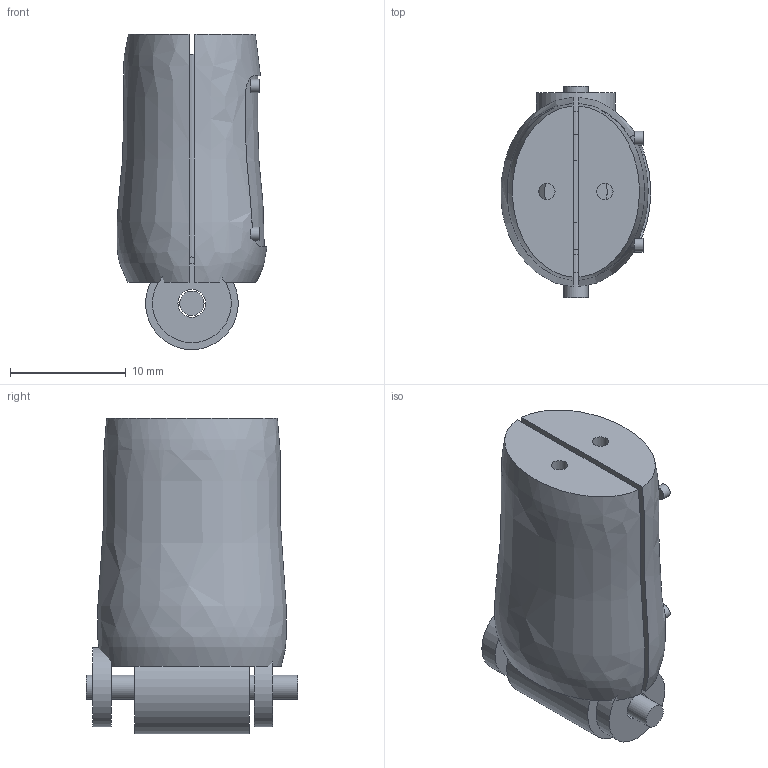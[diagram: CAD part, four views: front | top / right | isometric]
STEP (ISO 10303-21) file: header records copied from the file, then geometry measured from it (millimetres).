
FILE_DESCRIPTION(('FreeCAD Model'),'2;1');
FILE_NAME('Open CASCADE Shape Model','2026-10-05T09:22:56',('Author'),( ''),'Open CASCADE STEP processor 7.8','FreeCAD','Unknown');
FILE_SCHEMA(('AUTOMOTIVE_DESIGN { 1 0 10303 214 1 1 1 1 }'));
Length unit declared in the file: millimetre
Products named in the file (13): Export_middle_intermediate; middle_intermediateDorsalShell; middle_intermediateFlexorShell; middle_intermediateInsetPad; middle_intermediateCore; middle_intermediateHingeBarrel; middle_intermediateCheek-1; middle_intermediateCheek1; middle_intermediatePin; middle_intermediateScrew_-1_0.24; middle_intermediateScrew_-1_0.75; middle_intermediateScrew_1_0.24; middle_intermediateScrew_1_0.75
Assembly tree (12 placements, depth 2):
  Export_middle_intermediate
    middle_intermediateDorsalShell
    middle_intermediateFlexorShell
    middle_intermediateInsetPad
    middle_intermediateCore
    middle_intermediateHingeBarrel
    middle_intermediateCheek-1
    middle_intermediateCheek1
    middle_intermediatePin
    middle_intermediateScrew_-1_0.24
    middle_intermediateScrew_-1_0.75
    middle_intermediateScrew_1_0.24
    middle_intermediateScrew_1_0.75
Bounding box: 12.92 x 18.2 x 27.2 mm (x, y, z)
Volume: 3984.2 mm3; surface area: 3523 mm2
Topology: 12 solids, 12 shells, 83 faces, 150 edges, 90 vertices
Faces by surface type: plane 38, cylinder 34, sphere 8, bspline 3
Full cylindrical faces by diameter (mm): 0.464 x4, 1.16 x4, 1.4 x2, 2.1 x1, 2.4 x3, 5.4 x1, 6.8 x2, 8 x1
Entity records: 3176 total; most frequent: CARTESIAN_POINT 1388, DIRECTION 356, ORIENTED_EDGE 288, AXIS2_PLACEMENT_3D 153, EDGE_CURVE 144, FACE_BOUND 98, EDGE_LOOP 98, VERTEX_POINT 90
